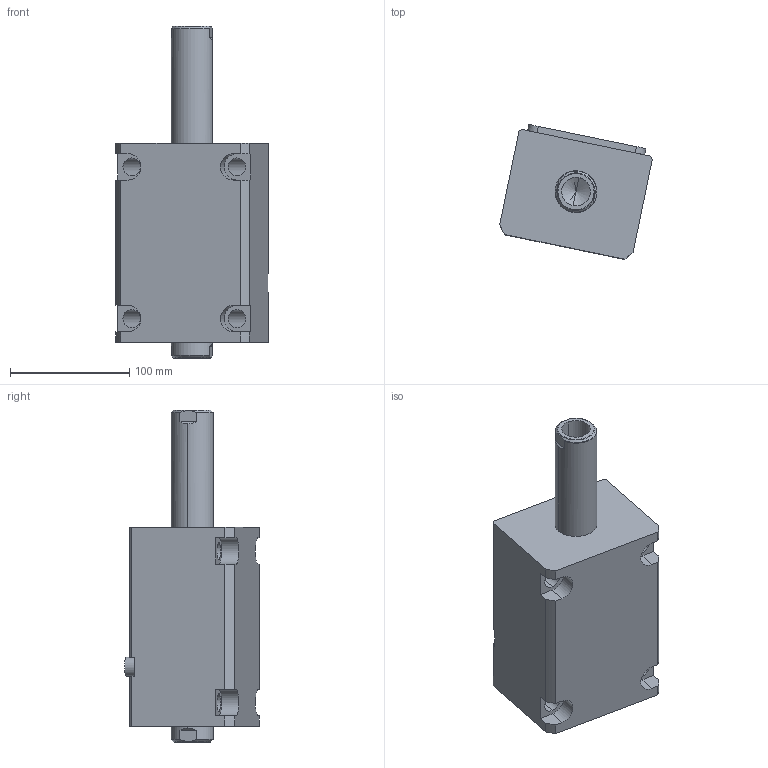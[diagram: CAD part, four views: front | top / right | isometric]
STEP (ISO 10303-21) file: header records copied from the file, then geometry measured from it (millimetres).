
FILE_DESCRIPTION (( 'STEP AP214' ), '1' );
FILE_NAME ('chtb-lwm63x85n_asm.STEP', '2018-05-22T02:21:36', ( 'Windows' ), ( 'Microsoft' ), 'SwSTEP 2.0', 'SolidWorks 2015', '' );
FILE_SCHEMA (( 'AUTOMOTIVE_DESIGN' ));
Length unit declared in the file: millimetre
Products named in the file (5): CHTB-SW63X85NHSG; CHTB-LWM63X85NBT; CHTB-LA63PJ; CHTB-63QG; chtb-lwm63x85n_asm
Assembly tree (4 placements, depth 2):
  chtb-lwm63x85n_asm
    CHTB-63QG
    CHTB-LA63PJ
    CHTB-LWM63X85NBT
    CHTB-SW63X85NHSG
Bounding box: 127.72 x 113 x 278 mm (x, y, z)
Volume: 1519150.1 mm3; surface area: 199127.7 mm2
Topology: 4 solids, 4 shells, 186 faces, 543 edges, 367 vertices
Faces by surface type: cylinder 103, plane 47, bspline 12, cone 12, torus 12
Entity records: 18665 total; most frequent: CARTESIAN_POINT 13839, ORIENTED_EDGE 1070, DIRECTION 834, EDGE_CURVE 535, VERTEX_POINT 367, AXIS2_PLACEMENT_3D 318, EDGE_LOOP 212, LINE 198
